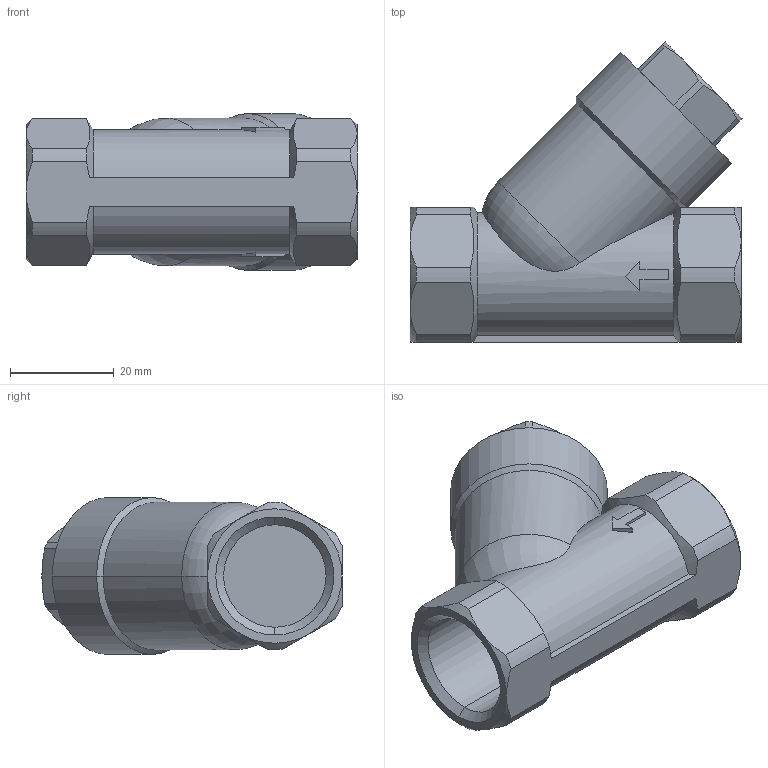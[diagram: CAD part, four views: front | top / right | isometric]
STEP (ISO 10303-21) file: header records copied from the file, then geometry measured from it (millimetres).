
FILE_DESCRIPTION (( 'STEP AP203' ), '1' );
FILE_NAME ('Y6.623015FNC.STEP', '2018-12-14T07:40:49', ( 'dell2' ), ( 'Microsoft' ), 'SwSTEP 2.0', 'SolidWorks 2017', '' );
FILE_SCHEMA (( 'CONFIG_CONTROL_DESIGN' ));
Length unit declared in the file: millimetre
Products named in the file (1): Y6.623015FNC
Bounding box: 64.15 x 58 x 30.3 mm (x, y, z)
Volume: 47065.9 mm3; surface area: 11755.1 mm2
Topology: 1 solids, 1 shells, 97 faces, 243 edges, 153 vertices
Faces by surface type: plane 41, cone 27, cylinder 27, torus 2
Entity records: 3375 total; most frequent: CARTESIAN_POINT 1047, ORIENTED_EDGE 486, DIRECTION 456, EDGE_CURVE 243, AXIS2_PLACEMENT_3D 182, VERTEX_POINT 153, EDGE_LOOP 102, ADVANCED_FACE 97
